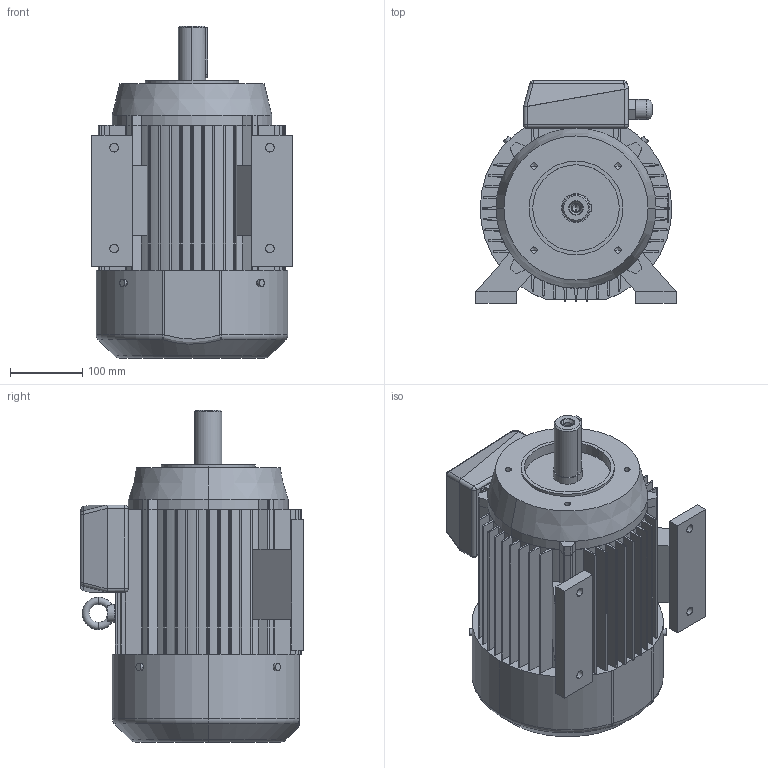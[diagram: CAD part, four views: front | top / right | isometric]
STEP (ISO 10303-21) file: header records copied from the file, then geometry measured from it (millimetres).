
FILE_DESCRIPTION (( 'STEP AP203' ), '1' );
FILE_NAME ('SLg 132S-B34-C2.STEP', '2010-04-14T11:09:50', ( 'INDUKTA' ), ( 'CANTONI MOTOR' ), 'SwSTEP 2.0', 'SolidWorks 2003064', '' );
FILE_SCHEMA (( 'CONFIG_CONTROL_DESIGN' ));
Length unit declared in the file: millimetre
Products named in the file (1): SLg 132S-B34-C2
Bounding box: 278 x 309 x 461 mm (x, y, z)
Volume: 18771219.6 mm3; surface area: 987850 mm2
Topology: 14 solids, 14 shells, 534 faces, 1414 edges, 899 vertices
Faces by surface type: plane 252, cylinder 194, bspline 43, cone 22, torus 13, sphere 10
Entity records: 20074 total; most frequent: CARTESIAN_POINT 6880, ORIENTED_EDGE 2788, DIRECTION 2678, EDGE_CURVE 1394, AXIS2_PLACEMENT_3D 913, VERTEX_POINT 899, LINE 852, VECTOR 852
